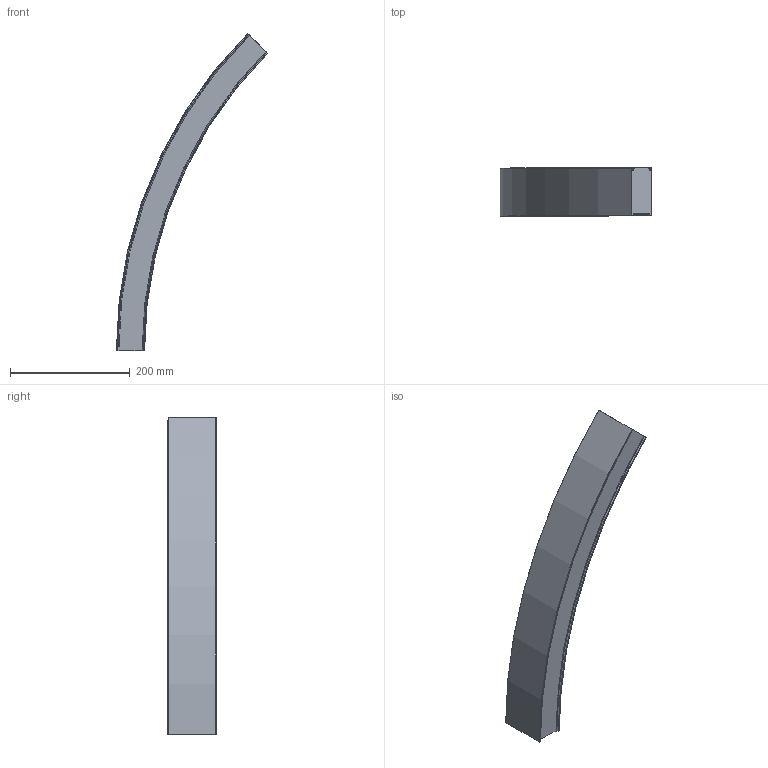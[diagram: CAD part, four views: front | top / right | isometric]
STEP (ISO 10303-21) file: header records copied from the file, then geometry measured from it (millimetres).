
FILE_DESCRIPTION (( 'STEP AP203' ), '1' );
FILE_NAME ('mLight_Swerve 47_R725 mm 45 deg.STEP', '2020-04-01T00:52:46', ( '' ), ( '' ), 'SwSTEP 2.0', 'SolidWorks 2017', '' );
FILE_SCHEMA (( 'CONFIG_CONTROL_DESIGN' ));
Length unit declared in the file: millimetre
Products named in the file (1): mLight_Swerve 47_R725 mm 45 deg
Bounding box: 252.46 x 80.63 x 529.27 mm (x, y, z)
Volume: 2052909.5 mm3; surface area: 164423.7 mm2
Topology: 1 solids, 1 shells, 46 faces, 132 edges, 88 vertices
Faces by surface type: torus 24, plane 10, cylinder 6, cone 6
Entity records: 1645 total; most frequent: DIRECTION 318, CARTESIAN_POINT 267, ORIENTED_EDGE 264, AXIS2_PLACEMENT_3D 139, EDGE_CURVE 132, CIRCLE 92, VERTEX_POINT 88, ADVANCED_FACE 46
